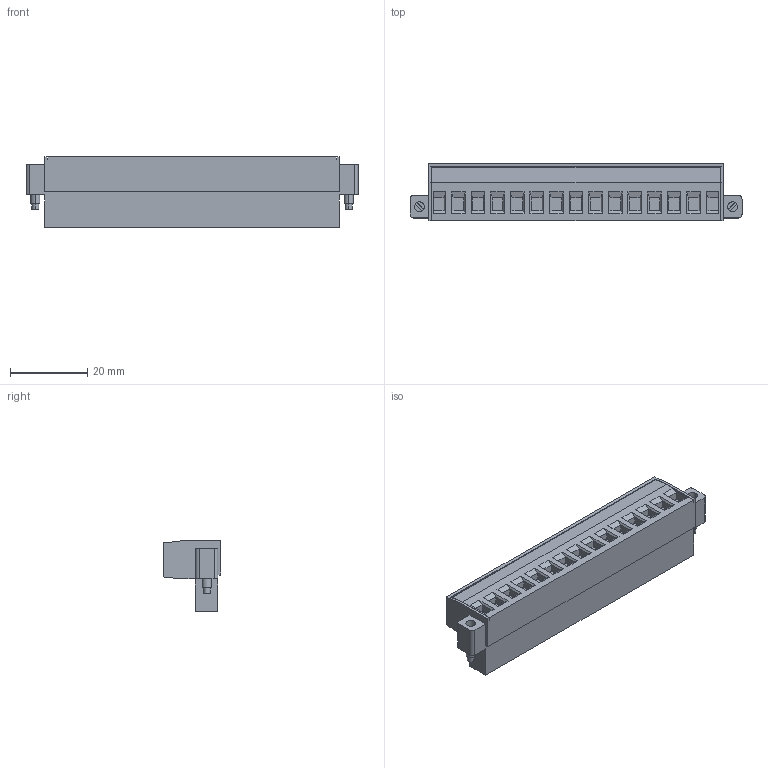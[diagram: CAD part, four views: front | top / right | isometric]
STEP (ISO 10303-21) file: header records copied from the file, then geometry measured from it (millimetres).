
FILE_DESCRIPTION((''),'2;1');
FILE_NAME('395340015','2015-02-20T',('me'),(''),'PRO/ENGINEER BY PARAMETRIC TECHNOLOGY CORPORATION, 2011490','PRO/ENGINEER BY PARAMETRIC TECHNOLOGY CORPORATION, 2011490','');
FILE_SCHEMA(('CONFIG_CONTROL_DESIGN'));
Length unit declared in the file: inch
Products named in the file (1): 395340015
Bounding box: 86 x 14.99 x 18.29 mm (x, y, z)
Volume: 14348 mm3; surface area: 7797.4 mm2
Topology: 1 solids, 1 shells, 601 faces, 1452 edges, 972 vertices
Faces by surface type: plane 427, cylinder 144, cone 30
Entity records: 17279 total; most frequent: DIRECTION 3012, CARTESIAN_POINT 2954, ORIENTED_EDGE 2832, EDGE_CURVE 1416, VECTOR 1096, LINE 1096, AXIS2_PLACEMENT_3D 958, VERTEX_POINT 900
